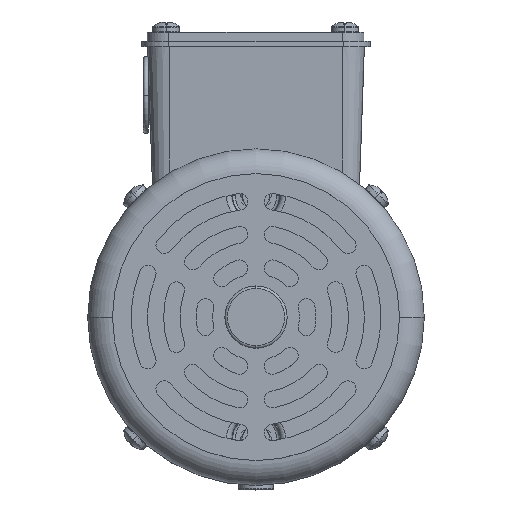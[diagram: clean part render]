
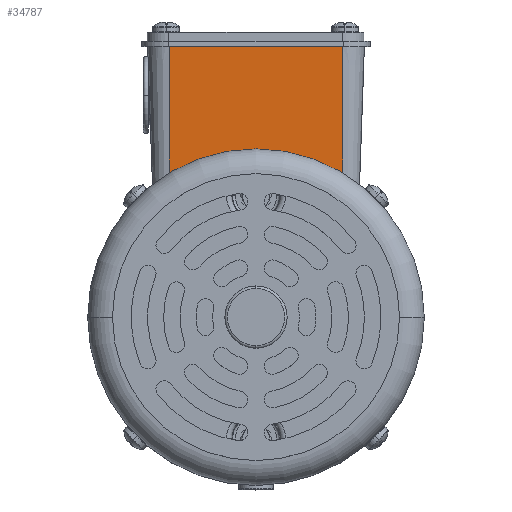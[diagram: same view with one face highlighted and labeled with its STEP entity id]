
A CAD part, top view. The second image highlights one B-rep face of the part: STEP entity #34787.
In plain terms, the highlighted planar face has unit normal (0, -0.035, 0.999).
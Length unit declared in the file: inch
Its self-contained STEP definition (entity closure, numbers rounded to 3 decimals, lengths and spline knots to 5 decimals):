
#1676 = ORIENTED_EDGE ( 'NONE', *, *, #7661, .T. ) ;
#4448 = LINE ( 'NONE', #24213, #64885 ) ;
#7056 = DIRECTION ( 'NONE',  ( 1., 0., 0. ) ) ;
#7561 = VERTEX_POINT ( 'NONE', #56151 ) ;
#7661 = EDGE_CURVE ( 'NONE', #37098, #51918, #63782, .T. ) ;
#7930 = PLANE ( 'NONE',  #50934 ) ;
#8112 = CARTESIAN_POINT ( 'NONE',  ( 0., 1.80241, 8.30233 ) ) ;
#9602 = LINE ( 'NONE', #43224, #69961 ) ;
#17596 = FACE_OUTER_BOUND ( 'NONE', #75266, .T. ) ;
#19805 = ORIENTED_EDGE ( 'NONE', *, *, #25622, .F. ) ;
#20273 = CARTESIAN_POINT ( 'NONE',  ( 1., 1.50108, 8.29181 ) ) ;
#24213 = CARTESIAN_POINT ( 'NONE',  ( -1., 3.1245, 8.3485 ) ) ;
#25622 = EDGE_CURVE ( 'NONE', #26755, #54671, #9602, .T. ) ;
#26755 = VERTEX_POINT ( 'NONE', #58100 ) ;
#29746 = CARTESIAN_POINT ( 'NONE',  ( 1., 3.1245, 8.3485 ) ) ;
#29943 = EDGE_CURVE ( 'NONE', #7561, #54671, #31860, .T. ) ;
#30285 = DIRECTION ( 'NONE',  ( 0., 0.999, 0.035 ) ) ;
#31860 = LINE ( 'NONE', #62487, #45986 ) ;
#32985 = CARTESIAN_POINT ( 'NONE',  ( -1., 3.1245, 8.3485 ) ) ;
#34787 = ADVANCED_FACE ( 'NONE', ( #17596 ), #7930, .T. ) ;
#37098 = VERTEX_POINT ( 'NONE', #63602 ) ;
#39058 = DIRECTION ( 'NONE',  ( 0., -0.999, -0.035 ) ) ;
#40132 = EDGE_CURVE ( 'NONE', #51918, #7561, #50302, .T. ) ;
#43224 = CARTESIAN_POINT ( 'NONE',  ( -1., 3.1245, 8.3485 ) ) ;
#44273 = CARTESIAN_POINT ( 'NONE',  ( 0.35829, 1.80241, 8.30233 ) ) ;
#45367 = CARTESIAN_POINT ( 'NONE',  ( 0., 1.80241, 8.30233 ) ) ;
#45623 = CARTESIAN_POINT ( 'NONE',  ( -0.35829, 1.80241, 8.30233 ) ) ;
#45986 = VECTOR ( 'NONE', #68539, 39.37008 ) ;
#46685 = CARTESIAN_POINT ( 'NONE',  ( -0.70135, 1.69903, 8.29872 ) ) ;
#46966 = CARTESIAN_POINT ( 'NONE',  ( -1., 1.50108, 8.29181 ) ) ;
#50302 =( BOUNDED_CURVE ( )  B_SPLINE_CURVE ( 3, ( #8112, #44273, #56387, #20273 ),
 .UNSPECIFIED., .F., .F. ) 
 B_SPLINE_CURVE_WITH_KNOTS ( ( 4, 4 ),
 ( 0., 0.58534 ),
 .UNSPECIFIED. ) 
 CURVE ( )  GEOMETRIC_REPRESENTATION_ITEM ( )  RATIONAL_B_SPLINE_CURVE ( ( 1., 0.972, 0.972, 1. ) ) 
 REPRESENTATION_ITEM ( '' )  );
#50934 = AXIS2_PLACEMENT_3D ( 'NONE', #32985, #75141, #39058 ) ;
#51918 = VERTEX_POINT ( 'NONE', #69807 ) ;
#54671 = VERTEX_POINT ( 'NONE', #29746 ) ;
#56151 = CARTESIAN_POINT ( 'NONE',  ( 1., 1.50108, 8.29181 ) ) ;
#56387 = CARTESIAN_POINT ( 'NONE',  ( 0.70135, 1.69903, 8.29872 ) ) ;
#57721 = ORIENTED_EDGE ( 'NONE', *, *, #29943, .T. ) ;
#58100 = CARTESIAN_POINT ( 'NONE',  ( -1., 3.1245, 8.3485 ) ) ;
#62487 = CARTESIAN_POINT ( 'NONE',  ( 1., 3.1245, 8.3485 ) ) ;
#63157 = ORIENTED_EDGE ( 'NONE', *, *, #40132, .T. ) ;
#63602 = CARTESIAN_POINT ( 'NONE',  ( -1., 1.50108, 8.29181 ) ) ;
#63782 =( BOUNDED_CURVE ( )  B_SPLINE_CURVE ( 3, ( #46966, #46685, #45623, #45367 ),
 .UNSPECIFIED., .F., .T. ) 
 B_SPLINE_CURVE_WITH_KNOTS ( ( 4, 4 ),
 ( 5.69784, 6.28319 ),
 .UNSPECIFIED. ) 
 CURVE ( )  GEOMETRIC_REPRESENTATION_ITEM ( )  RATIONAL_B_SPLINE_CURVE ( ( 1., 0.972, 0.972, 1. ) ) 
 REPRESENTATION_ITEM ( '' )  );
#64885 = VECTOR ( 'NONE', #30285, 39.37008 ) ;
#68539 = DIRECTION ( 'NONE',  ( 0., 0.999, 0.035 ) ) ;
#69807 = CARTESIAN_POINT ( 'NONE',  ( 0., 1.80241, 8.30233 ) ) ;
#69961 = VECTOR ( 'NONE', #7056, 39.37008 ) ;
#72753 = EDGE_CURVE ( 'NONE', #37098, #26755, #4448, .T. ) ;
#74866 = ORIENTED_EDGE ( 'NONE', *, *, #72753, .F. ) ;
#75141 = DIRECTION ( 'NONE',  ( 0., -0.035, 0.999 ) ) ;
#75266 = EDGE_LOOP ( 'NONE', ( #74866, #1676, #63157, #57721, #19805 ) ) ;
